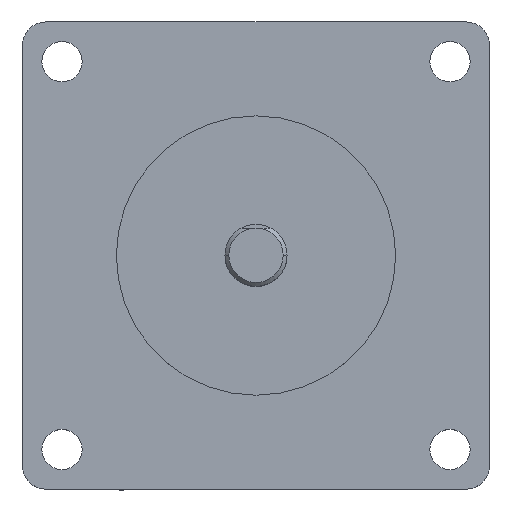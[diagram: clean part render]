
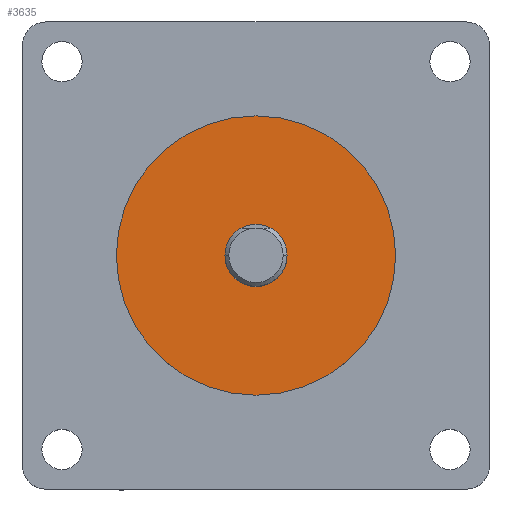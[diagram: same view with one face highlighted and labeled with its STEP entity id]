
A CAD part, top view. The second image highlights one B-rep face of the part: STEP entity #3635.
In plain terms, the highlighted planar face has unit normal (0, 0, 1).
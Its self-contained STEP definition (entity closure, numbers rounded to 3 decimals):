
#231 = EDGE_CURVE ( 'NONE', #1855, #1854, #1398, .T. ) ;
#234 = EDGE_CURVE ( 'NONE', #1860, #1859, #1403, .T. ) ;
#237 = EDGE_CURVE ( 'NONE', #1854, #1855, #1415, .T. ) ;
#238 = EDGE_CURVE ( 'NONE', #1859, #1860, #1412, .T. ) ;
#570 = ORIENTED_EDGE ( 'NONE', *, *, #237, .F. ) ;
#571 = ORIENTED_EDGE ( 'NONE', *, *, #238, .T. ) ;
#573 = ORIENTED_EDGE ( 'NONE', *, *, #231, .F. ) ;
#574 = ORIENTED_EDGE ( 'NONE', *, *, #234, .T. ) ;
#1051 = FACE_OUTER_BOUND ( 'NONE', #1819, .T. ) ;
#1052 = FACE_BOUND ( 'NONE', #1817, .T. ) ;
#1398 = CIRCLE ( 'NONE', #1405, 4. ) ;
#1403 = CIRCLE ( 'NONE', #1410, 18. ) ;
#1405 = AXIS2_PLACEMENT_3D ( 'NONE', #2508, #2509, #2510 ) ;
#1410 = AXIS2_PLACEMENT_3D ( 'NONE', #2516, #2517, #2518 ) ;
#1412 = CIRCLE ( 'NONE', #1418, 18. ) ;
#1415 = CIRCLE ( 'NONE', #1416, 4. ) ;
#1416 = AXIS2_PLACEMENT_3D ( 'NONE', #2524, #2525, #2526 ) ;
#1418 = AXIS2_PLACEMENT_3D ( 'NONE', #2527, #2528, #2529 ) ;
#1817 = EDGE_LOOP ( 'NONE', ( #573, #570 ) ) ;
#1819 = EDGE_LOOP ( 'NONE', ( #574, #571 ) ) ;
#1854 = VERTEX_POINT ( 'NONE', #2803 ) ;
#1855 = VERTEX_POINT ( 'NONE', #2804 ) ;
#1859 = VERTEX_POINT ( 'NONE', #2808 ) ;
#1860 = VERTEX_POINT ( 'NONE', #2809 ) ;
#2508 = CARTESIAN_POINT ( 'NONE',  ( 0., 0., 56.6 ) ) ;
#2509 = DIRECTION ( 'NONE',  ( 0., 0., 1. ) ) ;
#2510 = DIRECTION ( 'NONE',  ( 1., 0., 0. ) ) ;
#2516 = CARTESIAN_POINT ( 'NONE',  ( 0., 0., 56.6 ) ) ;
#2517 = DIRECTION ( 'NONE',  ( 0., 0., 1. ) ) ;
#2518 = DIRECTION ( 'NONE',  ( 1., 0., 0. ) ) ;
#2524 = CARTESIAN_POINT ( 'NONE',  ( 0., 0., 56.6 ) ) ;
#2525 = DIRECTION ( 'NONE',  ( 0., 0., 1. ) ) ;
#2526 = DIRECTION ( 'NONE',  ( 1., 0., 0. ) ) ;
#2527 = CARTESIAN_POINT ( 'NONE',  ( 0., 0., 56.6 ) ) ;
#2528 = DIRECTION ( 'NONE',  ( 0., 0., 1. ) ) ;
#2529 = DIRECTION ( 'NONE',  ( 1., 0., 0. ) ) ;
#2803 = CARTESIAN_POINT ( 'NONE',  ( 4., 0., 56.6 ) ) ;
#2804 = CARTESIAN_POINT ( 'NONE',  ( -4., 0., 56.6 ) ) ;
#2808 = CARTESIAN_POINT ( 'NONE',  ( 18., 0., 56.6 ) ) ;
#2809 = CARTESIAN_POINT ( 'NONE',  ( -18., 0., 56.6 ) ) ;
#3251 = PLANE ( 'NONE',  #3477 ) ;
#3252 = CARTESIAN_POINT ( 'NONE',  ( 0., 0., 56.6 ) ) ;
#3253 = DIRECTION ( 'NONE',  ( 0., 0., 1. ) ) ;
#3254 = DIRECTION ( 'NONE',  ( 1., 0., 0. ) ) ;
#3477 = AXIS2_PLACEMENT_3D ( 'NONE', #3252, #3253, #3254 ) ;
#3635 = ADVANCED_FACE ( 'NONE', ( #1051, #1052 ), #3251, .T. ) ;
